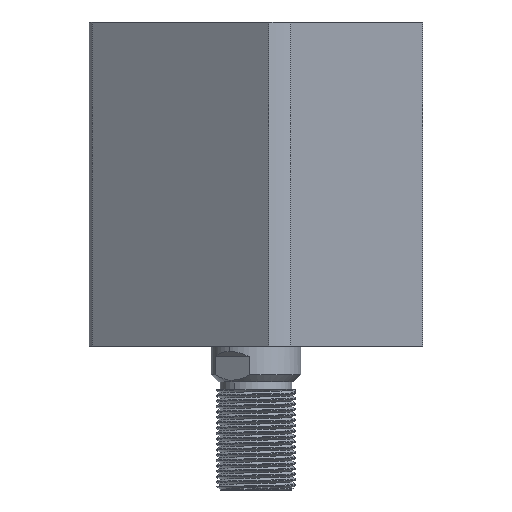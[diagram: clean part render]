
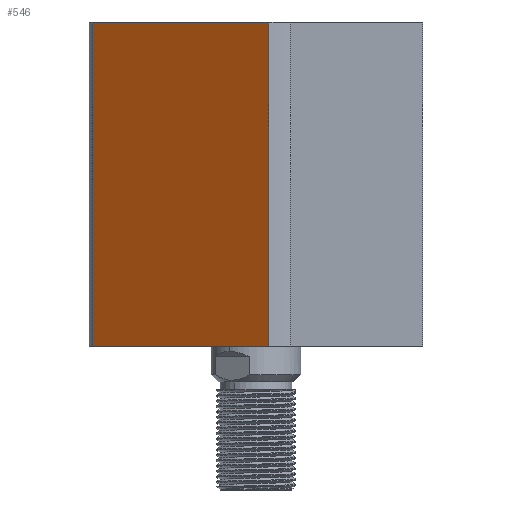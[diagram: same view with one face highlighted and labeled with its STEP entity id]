
A CAD part, front view. The second image highlights one B-rep face of the part: STEP entity #546.
In plain terms, the highlighted planar face has unit normal (-0.599, -0.801, 0) as drawn and (1, 0, 0) by its records, which use the part's own axes.
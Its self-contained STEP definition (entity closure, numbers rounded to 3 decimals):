
#546 = ADVANCED_FACE ( 'NONE', ( #8511 ), #8804, .F. ) ;
#1027 = DIRECTION ( 'NONE',  ( 0., 0., 1. ) ) ;
#1563 = DIRECTION ( 'NONE',  ( 0., 1., 0. ) ) ;
#1757 = LINE ( 'NONE', #5242, #12620 ) ;
#1809 = ORIENTED_EDGE ( 'NONE', *, *, #6305, .F. ) ;
#1821 = LINE ( 'NONE', #5070, #7722 ) ;
#3434 = VERTEX_POINT ( 'NONE', #4869 ) ;
#3805 = AXIS2_PLACEMENT_3D ( 'NONE', #12895, #7758, #6705 ) ;
#3910 = VERTEX_POINT ( 'NONE', #8506 ) ;
#4115 = VECTOR ( 'NONE', #1563, 1000. ) ;
#4143 = LINE ( 'NONE', #12349, #9392 ) ;
#4869 = CARTESIAN_POINT ( 'NONE',  ( 35., 30.615, 90. ) ) ;
#5070 = CARTESIAN_POINT ( 'NONE',  ( 35., 30.615, 300. ) ) ;
#5242 = CARTESIAN_POINT ( 'NONE',  ( 35., 35., 0. ) ) ;
#5701 = ORIENTED_EDGE ( 'NONE', *, *, #13519, .F. ) ;
#6305 = EDGE_CURVE ( 'NONE', #3910, #13338, #4143, .T. ) ;
#6705 = DIRECTION ( 'NONE',  ( 0., 0., 1. ) ) ;
#6720 = EDGE_CURVE ( 'NONE', #3434, #7217, #1821, .T. ) ;
#6889 = LINE ( 'NONE', #11003, #4115 ) ;
#7217 = VERTEX_POINT ( 'NONE', #8101 ) ;
#7684 = ORIENTED_EDGE ( 'NONE', *, *, #12375, .T. ) ;
#7722 = VECTOR ( 'NONE', #10337, 1000. ) ;
#7758 = DIRECTION ( 'NONE',  ( -1., 0., 0. ) ) ;
#8101 = CARTESIAN_POINT ( 'NONE',  ( 35., 30.615, 0. ) ) ;
#8506 = CARTESIAN_POINT ( 'NONE',  ( 35., -30.615, 0. ) ) ;
#8511 = FACE_OUTER_BOUND ( 'NONE', #12076, .T. ) ;
#8804 = PLANE ( 'NONE',  #3805 ) ;
#9392 = VECTOR ( 'NONE', #1027, 1000. ) ;
#10337 = DIRECTION ( 'NONE',  ( 0., 0., -1. ) ) ;
#10609 = ORIENTED_EDGE ( 'NONE', *, *, #6720, .F. ) ;
#11003 = CARTESIAN_POINT ( 'NONE',  ( 35., 35., 90. ) ) ;
#11926 = CARTESIAN_POINT ( 'NONE',  ( 35., -30.615, 90. ) ) ;
#12076 = EDGE_LOOP ( 'NONE', ( #10609, #5701, #1809, #7684 ) ) ;
#12349 = CARTESIAN_POINT ( 'NONE',  ( 35., -30.615, 300. ) ) ;
#12375 = EDGE_CURVE ( 'NONE', #3910, #7217, #1757, .T. ) ;
#12597 = DIRECTION ( 'NONE',  ( 0., 1., 0. ) ) ;
#12620 = VECTOR ( 'NONE', #12597, 1000. ) ;
#12895 = CARTESIAN_POINT ( 'NONE',  ( 35., 35., 90. ) ) ;
#13338 = VERTEX_POINT ( 'NONE', #11926 ) ;
#13519 = EDGE_CURVE ( 'NONE', #13338, #3434, #6889, .T. ) ;
